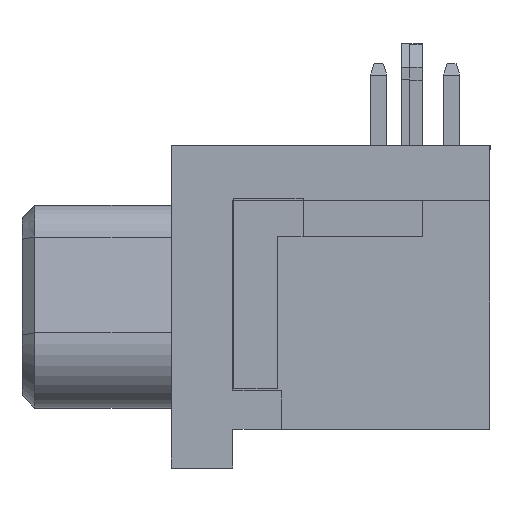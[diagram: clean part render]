
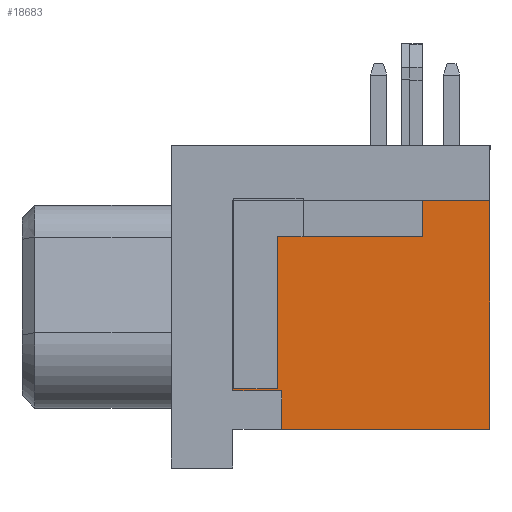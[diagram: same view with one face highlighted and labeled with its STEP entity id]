
A CAD part, left-side view. The second image highlights one B-rep face of the part: STEP entity #18683.
In plain terms, the highlighted planar face has unit normal (-1, 0, 0).
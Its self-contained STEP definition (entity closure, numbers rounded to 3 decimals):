
#307 = VECTOR ( 'NONE', #6726, 1000. ) ;
#1335 = CARTESIAN_POINT ( 'NONE',  ( -10.179, 1.647, 3. ) ) ;
#1347 = CARTESIAN_POINT ( 'NONE',  ( -10.179, -8.353, 10.4 ) ) ;
#1360 = CARTESIAN_POINT ( 'NONE',  ( -10.179, -0.253, 1.5 ) ) ;
#1361 = CARTESIAN_POINT ( 'NONE',  ( -10.179, -8.353, 1.5 ) ) ;
#1362 = CARTESIAN_POINT ( 'NONE',  ( -10.179, 1.647, 10.4 ) ) ;
#1405 = CARTESIAN_POINT ( 'NONE',  ( -10.179, -0.253, 3. ) ) ;
#3031 = LINE ( 'NONE', #3044, #14838 ) ;
#3040 = LINE ( 'NONE', #3042, #14839 ) ;
#3042 = CARTESIAN_POINT ( 'NONE',  ( -10.179, -3.353, 1.5 ) ) ;
#3043 = DIRECTION ( 'NONE',  ( 0., -1., 0. ) ) ;
#3044 = CARTESIAN_POINT ( 'NONE',  ( -10.179, 0.697, 3. ) ) ;
#3045 = DIRECTION ( 'NONE',  ( 0., -1., 0. ) ) ;
#3046 = LINE ( 'NONE', #3047, #14750 ) ;
#3047 = CARTESIAN_POINT ( 'NONE',  ( -10.179, -8.353, 7.025 ) ) ;
#3048 = DIRECTION ( 'NONE',  ( 0., 0., 1. ) ) ;
#3052 = LINE ( 'NONE', #3053, #14836 ) ;
#3053 = CARTESIAN_POINT ( 'NONE',  ( -10.179, -3.353, 10.4 ) ) ;
#3054 = DIRECTION ( 'NONE',  ( 0., -1., 0. ) ) ;
#3067 = LINE ( 'NONE', #3068, #14832 ) ;
#3068 = CARTESIAN_POINT ( 'NONE',  ( -10.179, -0.253, 5.95 ) ) ;
#3069 = DIRECTION ( 'NONE',  ( 0., 0., 1. ) ) ;
#5849 = VERTEX_POINT ( 'NONE', #1335 ) ;
#5857 = VERTEX_POINT ( 'NONE', #1360 ) ;
#5858 = VERTEX_POINT ( 'NONE', #1361 ) ;
#5859 = VERTEX_POINT ( 'NONE', #1347 ) ;
#5867 = VERTEX_POINT ( 'NONE', #1362 ) ;
#5878 = VERTEX_POINT ( 'NONE', #1405 ) ;
#6333 = ORIENTED_EDGE ( 'NONE', *, *, #12777, .T. ) ;
#6335 = ORIENTED_EDGE ( 'NONE', *, *, #12778, .T. ) ;
#6336 = ORIENTED_EDGE ( 'NONE', *, *, #12786, .F. ) ;
#6338 = ORIENTED_EDGE ( 'NONE', *, *, #16088, .T. ) ;
#6343 = ORIENTED_EDGE ( 'NONE', *, *, #12781, .F. ) ;
#6344 = ORIENTED_EDGE ( 'NONE', *, *, #12779, .T. ) ;
#6722 = LINE ( 'NONE', #6725, #307 ) ;
#6725 = CARTESIAN_POINT ( 'NONE',  ( -10.179, 1.647, 7.215 ) ) ;
#6726 = DIRECTION ( 'NONE',  ( 0., 0., -1. ) ) ;
#11912 = PLANE ( 'NONE',  #14148 ) ;
#11914 = CARTESIAN_POINT ( 'NONE',  ( -10.179, -8.353, 10.4 ) ) ;
#11918 = FACE_OUTER_BOUND ( 'NONE', #17457, .T. ) ;
#11920 = DIRECTION ( 'NONE',  ( 1., 0., 0. ) ) ;
#11921 = DIRECTION ( 'NONE',  ( 0., 0., -1. ) ) ;
#12777 = EDGE_CURVE ( 'NONE', #5857, #5858, #3040, .T. ) ;
#12778 = EDGE_CURVE ( 'NONE', #5849, #5878, #3031, .T. ) ;
#12779 = EDGE_CURVE ( 'NONE', #5858, #5859, #3046, .T. ) ;
#12781 = EDGE_CURVE ( 'NONE', #5867, #5859, #3052, .T. ) ;
#12786 = EDGE_CURVE ( 'NONE', #5857, #5878, #3067, .T. ) ;
#14148 = AXIS2_PLACEMENT_3D ( 'NONE', #11914, #11920, #11921 ) ;
#14750 = VECTOR ( 'NONE', #3048, 1000. ) ;
#14832 = VECTOR ( 'NONE', #3069, 1000. ) ;
#14836 = VECTOR ( 'NONE', #3054, 1000. ) ;
#14838 = VECTOR ( 'NONE', #3045, 1000. ) ;
#14839 = VECTOR ( 'NONE', #3043, 1000. ) ;
#16088 = EDGE_CURVE ( 'NONE', #5867, #5849, #6722, .T. ) ;
#17457 = EDGE_LOOP ( 'NONE', ( #6344, #6343, #6338, #6335, #6336, #6333 ) ) ;
#18683 = ADVANCED_FACE ( 'NONE', ( #11918 ), #11912, .F. ) ;
